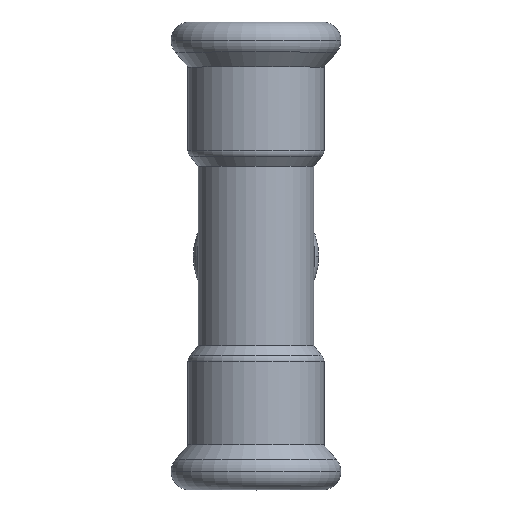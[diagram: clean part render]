
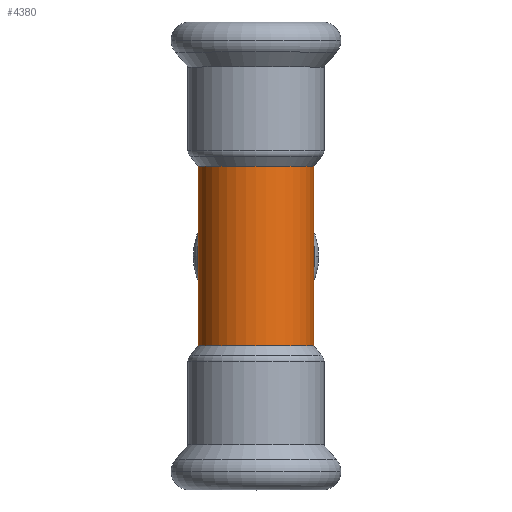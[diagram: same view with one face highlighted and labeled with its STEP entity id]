
A CAD part, top view. The second image highlights one B-rep face of the part: STEP entity #4380.
In plain terms, the highlighted cylindrical face has radius 9 mm (diameter 18 mm), a partial arc.
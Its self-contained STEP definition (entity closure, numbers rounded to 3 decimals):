
#3970=CARTESIAN_POINT('',(-98.071,13.74,
14.));
#3980=DIRECTION('',(0.,0.,1.));
#3990=DIRECTION('',(-1.,0.,0.));
#4000=AXIS2_PLACEMENT_3D('',#3970,#3980,#3990);
#4010=CYLINDRICAL_SURFACE('',#4000,9.);
#4020=CARTESIAN_POINT('',(-107.071,13.74,
14.));
#4030=DIRECTION('',(0.,0.,1.));
#4040=VECTOR('',#4030,1.);
#4050=LINE('',#4020,#4040);
#4060=CARTESIAN_POINT('',(-107.071,13.74,
-14.));
#4070=VERTEX_POINT('',#4060);
#4080=CARTESIAN_POINT('',(-107.071,13.74,
14.));
#4090=VERTEX_POINT('',#4080);
#4100=EDGE_CURVE('',#4070,#4090,#4050,.T.);
#4110=ORIENTED_EDGE('',*,*,#4100,.F.);
#4120=CARTESIAN_POINT('',(-98.071,13.74,
14.));
#4130=DIRECTION('',(0.,0.,1.));
#4140=DIRECTION('',(1.,0.,0.));
#4150=AXIS2_PLACEMENT_3D('',#4120,#4130,#4140);
#4160=CIRCLE('',#4150,9.);
#4170=CARTESIAN_POINT('',(-89.071,13.74,
14.));
#4180=VERTEX_POINT('',#4170);
#4190=EDGE_CURVE('',#4090,#4180,#4160,.T.);
#4200=ORIENTED_EDGE('',*,*,#4190,.F.);
#4210=CARTESIAN_POINT('',(-89.071,13.74,
14.));
#4220=DIRECTION('',(0.,0.,1.));
#4230=VECTOR('',#4220,1.);
#4240=LINE('',#4210,#4230);
#4250=CARTESIAN_POINT('',(-89.071,13.74,
-14.));
#4260=VERTEX_POINT('',#4250);
#4270=EDGE_CURVE('',#4260,#4180,#4240,.T.);
#4280=ORIENTED_EDGE('',*,*,#4270,.T.);
#4290=CARTESIAN_POINT('',(-98.071,13.74,
-14.));
#4300=DIRECTION('',(0.,0.,1.));
#4310=DIRECTION('',(-1.,0.,0.));
#4320=AXIS2_PLACEMENT_3D('',#4290,#4300,#4310);
#4330=CIRCLE('',#4320,9.);
#4340=EDGE_CURVE('',#4070,#4260,#4330,.T.);
#4350=ORIENTED_EDGE('',*,*,#4340,.T.);
#4360=EDGE_LOOP('',(#4350,#4280,#4200,#4110));
#4370=FACE_OUTER_BOUND('',#4360,.T.);
#4380=ADVANCED_FACE('',(#4370),#4010,.T.);
